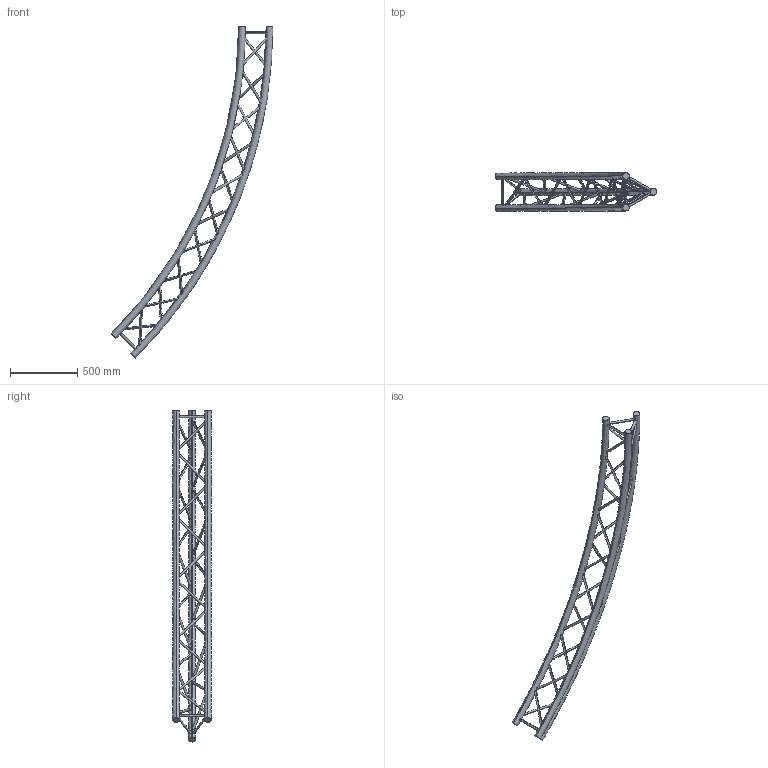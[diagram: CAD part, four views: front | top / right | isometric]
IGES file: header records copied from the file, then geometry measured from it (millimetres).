
Start section: SolidWorks IGES file using analytic representation for surfaces
Global section: file name: K:\BIBLIO\asd_biblio\SX290\Cercles\SXC29PE\SXC29700PE\SXC29700PE.IGS; native system: SolidWorks 2009; preprocessor: SolidWorks 2009; author: des3; date: 091021.112909; units: millimetre
Bounding box: 1205.61 x 287 x 2474.87 mm (x, y, z)
Surface area: 1693146.1 mm2 (no closed solid volume)
Topology: 0 solids, 0 shells, 84 faces, 5944 edges, 5944 vertices
Faces by surface type: revolution 72, bspline 12
